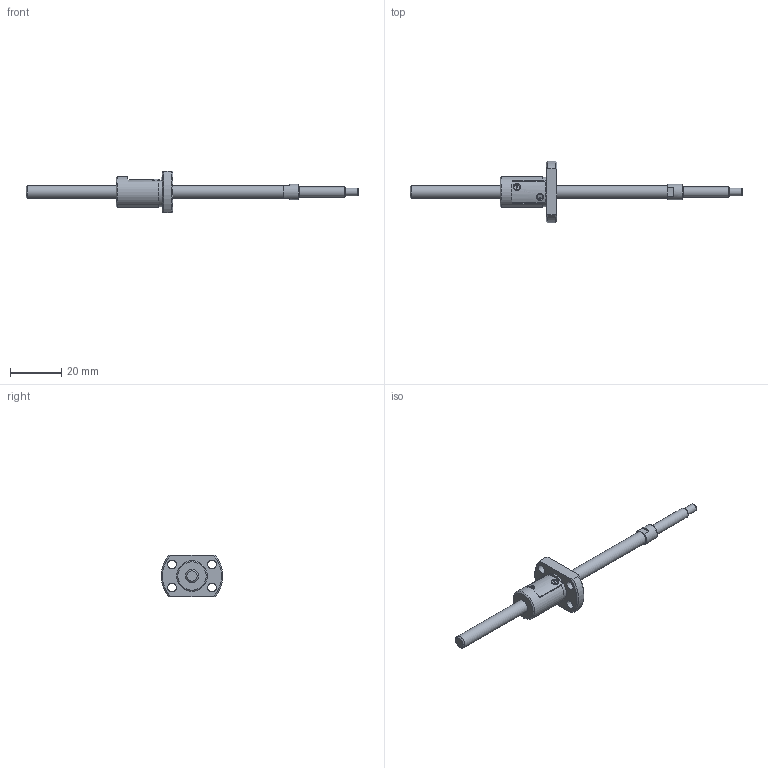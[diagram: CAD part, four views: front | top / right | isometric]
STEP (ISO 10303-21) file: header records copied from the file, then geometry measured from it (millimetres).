
FILE_DESCRIPTION(/* description */ ('STEP AP214'),/* implementation_level */ '2;1');
FILE_NAME(/* name */ 'SRT0504-096R129C7A0X(35Processing)',/* time_stamp */ '2026-08-04T17:51:58+02:00',/* author */ ('License CC BY-ND 4.0'),/* organization */ ('CADENAS'),/* preprocessor_version */ 'ST-DEVELOPER v20',/* originating_system */ 'PARTsolutions',/* authorisation */ ' ');
FILE_SCHEMA (('AUTOMOTIVE_DESIGN {1 0 10303 214 3 1 1}'));
Length unit declared in the file: millimetre
Products named in the file (3): SRT0504-096R129C7A0X(35Processing); SRT0504-96R155ACt7Processing9Shaft; SRT0504Nut
Assembly tree (2 placements, depth 2):
  SRT0504-096R129C7A0X(35Processing)
    SRT0504-96R155ACt7Processing9Shaft
    SRT0504Nut
Bounding box: 129 x 23.92 x 16 mm (x, y, z)
Volume: 5119.8 mm3; surface area: 4076.7 mm2
Topology: 2 solids, 2 shells, 60 faces, 148 edges, 97 vertices
Faces by surface type: plane 30, cylinder 16, cone 13, torus 1
Full cylindrical faces by diameter (mm): 1 x2, 3 x1, 3.4 x4, 4 x1, 5 x2, 6 x1, 11.5 x1, 12 x1
Entity records: 1683 total; most frequent: CARTESIAN_POINT 327, DIRECTION 276, ORIENTED_EDGE 224, AXIS2_PLACEMENT_3D 119, EDGE_CURVE 112, EDGE_LOOP 98, FACE_BOUND 98, VERTEX_POINT 84
